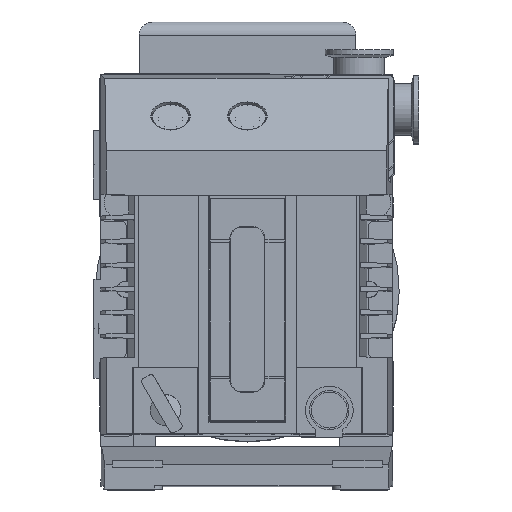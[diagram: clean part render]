
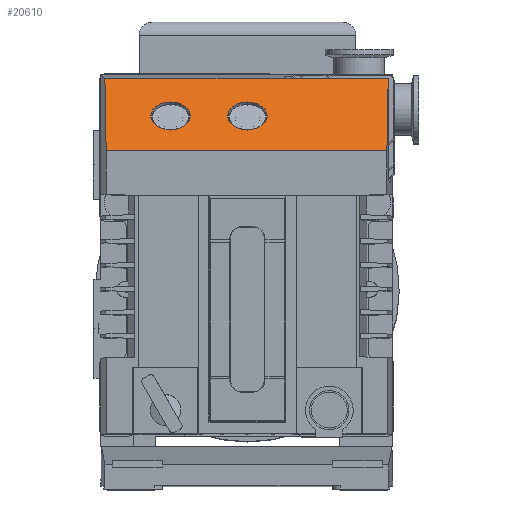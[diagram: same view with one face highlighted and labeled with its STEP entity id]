
A CAD part, top view. The second image highlights one B-rep face of the part: STEP entity #20610.
In plain terms, the highlighted planar face has unit normal (0, 0.707, 0.707) as drawn and (-0.707, 0.707, 0) by its records, which use the part's own axes.
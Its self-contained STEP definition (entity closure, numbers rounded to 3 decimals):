
#15280=DIRECTION('',(0.,0.,1.));
#15281=VECTOR('',#15280,164.559);
#15282=CARTESIAN_POINT('',(-184.5,81.,-82.78));
#15283=LINE('',#15282,#15281);
#15288=DIRECTION('',(0.,0.,1.));
#15289=VECTOR('',#15288,166.044);
#15290=CARTESIAN_POINT('',(-141.978,123.522,
-83.522));
#15291=LINE('',#15290,#15289);
#15292=DIRECTION('',(0.707,0.707,0.012));
#15293=VECTOR('',#15292,60.139);
#15294=CARTESIAN_POINT('',(-184.5,81.,81.78));
#15295=LINE('',#15294,#15293);
#15296=DIRECTION('',(0.707,0.707,-0.012));
#15297=VECTOR('',#15296,60.139);
#15298=CARTESIAN_POINT('',(-184.5,81.,-82.78));
#15299=LINE('',#15298,#15297);
#15300=CARTESIAN_POINT('',(-163.994,101.506,0.));
#15301=DIRECTION('',(-0.707,0.707,0.));
#15302=DIRECTION('',(0.707,0.707,0.));
#15303=AXIS2_PLACEMENT_3D('',#15300,#15301,#15302);
#15305=CARTESIAN_POINT('',(-163.994,101.506,0.));
#15306=DIRECTION('',(-0.707,0.707,0.));
#15307=DIRECTION('',(-0.707,-0.707,0.));
#15308=AXIS2_PLACEMENT_3D('',#15305,#15306,#15307);
#15310=CARTESIAN_POINT('',(-163.994,101.506,-45.));
#15311=DIRECTION('',(-0.707,0.707,0.));
#15312=DIRECTION('',(0.707,0.707,0.));
#15313=AXIS2_PLACEMENT_3D('',#15310,#15311,#15312);
#15315=CARTESIAN_POINT('',(-163.994,101.506,-45.));
#15316=DIRECTION('',(-0.707,0.707,0.));
#15317=DIRECTION('',(-0.707,-0.707,0.));
#15318=AXIS2_PLACEMENT_3D('',#15315,#15316,#15317);
#16703=CARTESIAN_POINT('',(-141.978,123.522,
-83.522));
#16704=CARTESIAN_POINT('',(-141.978,123.522,
82.522));
#16705=VERTEX_POINT('',#16703);
#16706=VERTEX_POINT('',#16704);
#17063=CARTESIAN_POINT('',(-184.5,81.,-82.78));
#17064=CARTESIAN_POINT('',(-184.5,81.,81.78));
#17065=VERTEX_POINT('',#17063);
#17066=VERTEX_POINT('',#17064);
#17420=CARTESIAN_POINT('',(-155.862,109.638,0.));
#17421=CARTESIAN_POINT('',(-172.126,93.374,0.));
#17422=VERTEX_POINT('',#17420);
#17423=VERTEX_POINT('',#17421);
#17438=CARTESIAN_POINT('',(-155.862,109.638,-45.));
#17439=CARTESIAN_POINT('',(-172.126,93.374,-45.));
#17440=VERTEX_POINT('',#17438);
#17441=VERTEX_POINT('',#17439);
#20587=CARTESIAN_POINT('',(-184.5,81.,-103.1));
#20588=DIRECTION('',(0.707,-0.707,0.));
#20589=DIRECTION('',(0.707,0.707,0.));
#20590=AXIS2_PLACEMENT_3D('',#20587,#20588,#20589);
#20591=PLANE('',#20590);
#20592=ORIENTED_EDGE('',*,*,#20060,.T.);
#20593=ORIENTED_EDGE('',*,*,#20084,.F.);
#20594=ORIENTED_EDGE('',*,*,#20580,.F.);
#20595=ORIENTED_EDGE('',*,*,#20016,.T.);
#20596=EDGE_LOOP('',(#20592,#20593,#20594,#20595));
#20597=FACE_OUTER_BOUND('',#20596,.F.);
#20599=ORIENTED_EDGE('',*,*,#20598,.T.);
#20601=ORIENTED_EDGE('',*,*,#20600,.T.);
#20602=EDGE_LOOP('',(#20599,#20601));
#20603=FACE_BOUND('',#20602,.F.);
#20605=ORIENTED_EDGE('',*,*,#20604,.T.);
#20607=ORIENTED_EDGE('',*,*,#20606,.T.);
#20608=EDGE_LOOP('',(#20605,#20607));
#20609=FACE_BOUND('',#20608,.F.);
#15304=CIRCLE('',#15303,11.5);
#15309=CIRCLE('',#15308,11.5);
#15314=CIRCLE('',#15313,11.5);
#15319=CIRCLE('',#15318,11.5);
#20016=EDGE_CURVE('',#17065,#16705,#15299,.T.);
#20060=EDGE_CURVE('',#16705,#16706,#15291,.T.);
#20084=EDGE_CURVE('',#17066,#16706,#15295,.T.);
#20580=EDGE_CURVE('',#17065,#17066,#15283,.T.);
#20598=EDGE_CURVE('',#17422,#17423,#15304,.T.);
#20600=EDGE_CURVE('',#17423,#17422,#15309,.T.);
#20604=EDGE_CURVE('',#17440,#17441,#15314,.T.);
#20606=EDGE_CURVE('',#17441,#17440,#15319,.T.);
#20610=ADVANCED_FACE('',(#20597,#20603,#20609),#20591,.F.);
